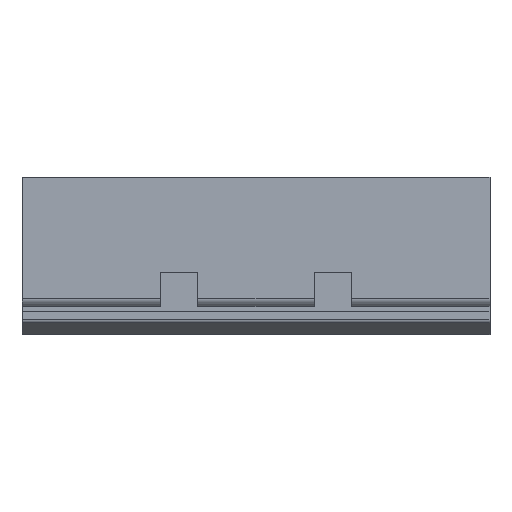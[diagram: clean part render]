
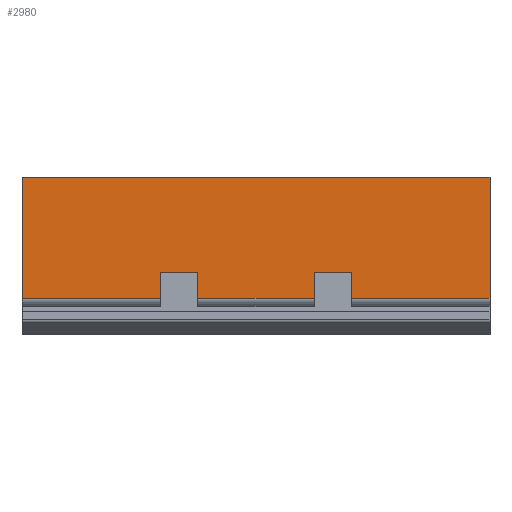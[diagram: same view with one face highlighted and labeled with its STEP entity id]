
A CAD part, front view. The second image highlights one B-rep face of the part: STEP entity #2980.
In plain terms, the highlighted planar face has unit normal (0, -1, 0).
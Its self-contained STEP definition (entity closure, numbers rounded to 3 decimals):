
#108 = VECTOR ( 'NONE', #2645, 1000. ) ;
#122 = LINE ( 'NONE', #925, #2044 ) ;
#151 = DIRECTION ( 'NONE',  ( 0., 0., 1. ) ) ;
#195 = EDGE_CURVE ( 'NONE', #602, #410, #2845, .T. ) ;
#198 = ORIENTED_EDGE ( 'NONE', *, *, #2827, .F. ) ;
#232 = LINE ( 'NONE', #803, #108 ) ;
#251 = DIRECTION ( 'NONE',  ( 0., 0., -1. ) ) ;
#283 = VERTEX_POINT ( 'NONE', #1801 ) ;
#294 = LINE ( 'NONE', #806, #1066 ) ;
#368 = ORIENTED_EDGE ( 'NONE', *, *, #1081, .T. ) ;
#390 = EDGE_LOOP ( 'NONE', ( #542, #3157, #2936, #1968, #582, #1543, #3011, #198, #368, #463, #1490, #1898 ) ) ;
#392 = CARTESIAN_POINT ( 'NONE',  ( -45.65, -64.6, -5.75 ) ) ;
#410 = VERTEX_POINT ( 'NONE', #3155 ) ;
#411 = CARTESIAN_POINT ( 'NONE',  ( -6.85, -64.6, -5.75 ) ) ;
#440 = VECTOR ( 'NONE', #652, 1000. ) ;
#443 = CARTESIAN_POINT ( 'NONE',  ( 6.85, -64.6, 5.5 ) ) ;
#463 = ORIENTED_EDGE ( 'NONE', *, *, #1976, .T. ) ;
#486 = FACE_OUTER_BOUND ( 'NONE', #390, .T. ) ;
#494 = DIRECTION ( 'NONE',  ( 1., 0., 0. ) ) ;
#504 = VECTOR ( 'NONE', #679, 1000. ) ;
#542 = ORIENTED_EDGE ( 'NONE', *, *, #2226, .F. ) ;
#582 = ORIENTED_EDGE ( 'NONE', *, *, #2822, .F. ) ;
#592 = CARTESIAN_POINT ( 'NONE',  ( -27.55, -64.6, -8.75 ) ) ;
#602 = VERTEX_POINT ( 'NONE', #2531 ) ;
#613 = CARTESIAN_POINT ( 'NONE',  ( -6.85, -64.6, 5.5 ) ) ;
#620 = VECTOR ( 'NONE', #1467, 1000. ) ;
#643 = LINE ( 'NONE', #2770, #620 ) ;
#652 = DIRECTION ( 'NONE',  ( 1., 0., 0. ) ) ;
#679 = DIRECTION ( 'NONE',  ( 1., 0., 0. ) ) ;
#803 = CARTESIAN_POINT ( 'NONE',  ( -27.55, -64.6, -8.75 ) ) ;
#806 = CARTESIAN_POINT ( 'NONE',  ( -11.25, -64.6, 5.5 ) ) ;
#919 = VERTEX_POINT ( 'NONE', #2687 ) ;
#925 = CARTESIAN_POINT ( 'NONE',  ( -27.55, -64.6, 5.5 ) ) ;
#962 = VECTOR ( 'NONE', #494, 1000. ) ;
#1011 = LINE ( 'NONE', #3325, #504 ) ;
#1066 = VECTOR ( 'NONE', #251, 1000. ) ;
#1075 = VERTEX_POINT ( 'NONE', #2326 ) ;
#1081 = EDGE_CURVE ( 'NONE', #1745, #1576, #122, .T. ) ;
#1128 = VERTEX_POINT ( 'NONE', #411 ) ;
#1142 = LINE ( 'NONE', #613, #2823 ) ;
#1227 = EDGE_CURVE ( 'NONE', #1318, #2571, #232, .T. ) ;
#1251 = DIRECTION ( 'NONE',  ( 0., 0., -1. ) ) ;
#1262 = CARTESIAN_POINT ( 'NONE',  ( -27.55, -64.6, 5.5 ) ) ;
#1294 = DIRECTION ( 'NONE',  ( 0., -1., 0. ) ) ;
#1318 = VERTEX_POINT ( 'NONE', #2120 ) ;
#1467 = DIRECTION ( 'NONE',  ( 0., 0., -1. ) ) ;
#1490 = ORIENTED_EDGE ( 'NONE', *, *, #3311, .F. ) ;
#1543 = ORIENTED_EDGE ( 'NONE', *, *, #3180, .T. ) ;
#1567 = EDGE_CURVE ( 'NONE', #3196, #1128, #3284, .T. ) ;
#1576 = VERTEX_POINT ( 'NONE', #3055 ) ;
#1745 = VERTEX_POINT ( 'NONE', #1262 ) ;
#1787 = LINE ( 'NONE', #3125, #962 ) ;
#1801 = CARTESIAN_POINT ( 'NONE',  ( 11.25, -64.6, -8.75 ) ) ;
#1841 = AXIS2_PLACEMENT_3D ( 'NONE', #2038, #1294, #2985 ) ;
#1852 = PLANE ( 'NONE',  #1841 ) ;
#1898 = ORIENTED_EDGE ( 'NONE', *, *, #1567, .T. ) ;
#1968 = ORIENTED_EDGE ( 'NONE', *, *, #195, .T. ) ;
#1976 = EDGE_CURVE ( 'NONE', #1576, #919, #2718, .T. ) ;
#2038 = CARTESIAN_POINT ( 'NONE',  ( -27.55, -64.6, 5.5 ) ) ;
#2044 = VECTOR ( 'NONE', #2240, 1000. ) ;
#2071 = CARTESIAN_POINT ( 'NONE',  ( -11.25, -64.6, -5.75 ) ) ;
#2120 = CARTESIAN_POINT ( 'NONE',  ( -6.85, -64.6, -8.75 ) ) ;
#2226 = EDGE_CURVE ( 'NONE', #1318, #1128, #1142, .T. ) ;
#2240 = DIRECTION ( 'NONE',  ( 0., 0., -1. ) ) ;
#2269 = CARTESIAN_POINT ( 'NONE',  ( 27.55, -64.6, -8.75 ) ) ;
#2283 = DIRECTION ( 'NONE',  ( 1., 0., 0. ) ) ;
#2290 = CARTESIAN_POINT ( 'NONE',  ( 11.25, -64.6, 5.5 ) ) ;
#2326 = CARTESIAN_POINT ( 'NONE',  ( 27.55, -64.6, 5.5 ) ) ;
#2374 = VECTOR ( 'NONE', #2283, 1000. ) ;
#2457 = VECTOR ( 'NONE', #1251, 1000. ) ;
#2531 = CARTESIAN_POINT ( 'NONE',  ( 6.85, -64.6, -5.75 ) ) ;
#2548 = VECTOR ( 'NONE', #2748, 1000. ) ;
#2571 = VERTEX_POINT ( 'NONE', #2908 ) ;
#2607 = LINE ( 'NONE', #443, #2457 ) ;
#2635 = VERTEX_POINT ( 'NONE', #2269 ) ;
#2645 = DIRECTION ( 'NONE',  ( 1., 0., 0. ) ) ;
#2687 = CARTESIAN_POINT ( 'NONE',  ( -11.25, -64.6, -8.75 ) ) ;
#2718 = LINE ( 'NONE', #592, #2548 ) ;
#2748 = DIRECTION ( 'NONE',  ( 1., 0., 0. ) ) ;
#2770 = CARTESIAN_POINT ( 'NONE',  ( 27.55, -64.6, 5.5 ) ) ;
#2822 = EDGE_CURVE ( 'NONE', #283, #410, #2866, .T. ) ;
#2823 = VECTOR ( 'NONE', #151, 1000. ) ;
#2827 = EDGE_CURVE ( 'NONE', #1745, #1075, #1787, .T. ) ;
#2829 = EDGE_CURVE ( 'NONE', #602, #2571, #2607, .T. ) ;
#2845 = LINE ( 'NONE', #3313, #2374 ) ;
#2866 = LINE ( 'NONE', #2290, #2891 ) ;
#2891 = VECTOR ( 'NONE', #3369, 1000. ) ;
#2908 = CARTESIAN_POINT ( 'NONE',  ( 6.85, -64.6, -8.75 ) ) ;
#2936 = ORIENTED_EDGE ( 'NONE', *, *, #2829, .F. ) ;
#2980 = ADVANCED_FACE ( 'Face1', ( #486 ), #1852, .T. ) ;
#2985 = DIRECTION ( 'NONE',  ( 0., 0., -1. ) ) ;
#3011 = ORIENTED_EDGE ( 'NONE', *, *, #3123, .F. ) ;
#3055 = CARTESIAN_POINT ( 'NONE',  ( -27.55, -64.6, -8.75 ) ) ;
#3123 = EDGE_CURVE ( 'NONE', #1075, #2635, #643, .T. ) ;
#3125 = CARTESIAN_POINT ( 'NONE',  ( -27.55, -64.6, 5.5 ) ) ;
#3155 = CARTESIAN_POINT ( 'NONE',  ( 11.25, -64.6, -5.75 ) ) ;
#3157 = ORIENTED_EDGE ( 'NONE', *, *, #1227, .T. ) ;
#3180 = EDGE_CURVE ( 'NONE', #283, #2635, #1011, .T. ) ;
#3196 = VERTEX_POINT ( 'NONE', #2071 ) ;
#3284 = LINE ( 'NONE', #392, #440 ) ;
#3311 = EDGE_CURVE ( 'NONE', #3196, #919, #294, .T. ) ;
#3313 = CARTESIAN_POINT ( 'NONE',  ( -27.55, -64.6, -5.75 ) ) ;
#3325 = CARTESIAN_POINT ( 'NONE',  ( -27.55, -64.6, -8.75 ) ) ;
#3369 = DIRECTION ( 'NONE',  ( 0., 0., 1. ) ) ;
